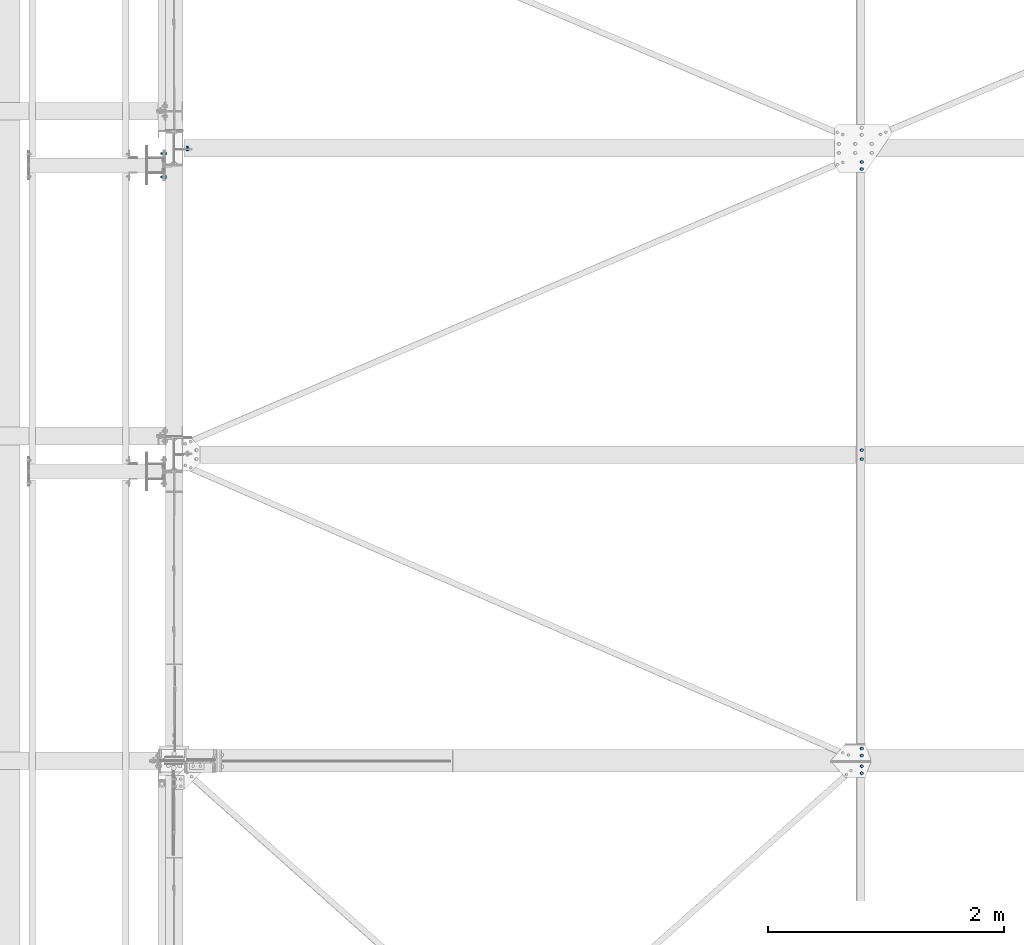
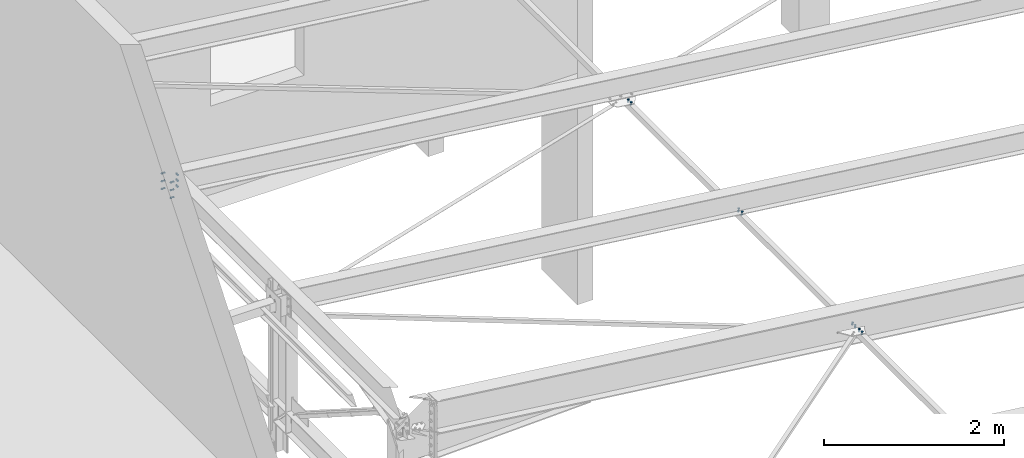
# One storey, part 206 of 3134: 6 mechanical fasteners, 5 elements without a shape of their own.
"""IFC2X3 building model written with IfcOpenShell, lengths in millimetres."""

from ifc_helpers import new_model, si_unit, frame, origin_with_axes, place, context, subcontext, project, spatial, faceted_brep, source, transform, mapped, material, type_object, element, aggregate, save


model = new_model("IFC2X3")

# Units and contexts
model_context = context("Model", 3, precision=1e-05, world=origin_with_axes())
body_context = subcontext(model_context, "Body", "Model", "MODEL_VIEW")
ifc_project = project(units=[si_unit("LENGTHUNIT", "METRE", prefix="MILLI"), si_unit("AREAUNIT", "SQUARE_METRE"), si_unit("VOLUMEUNIT", "CUBIC_METRE"), si_unit("MASSUNIT", "GRAM", prefix="KILO"), si_unit("TIMEUNIT", "SECOND"), si_unit("PLANEANGLEUNIT", "RADIAN"), si_unit("SOLIDANGLEUNIT", "STERADIAN"), si_unit("THERMODYNAMICTEMPERATUREUNIT", "DEGREE_CELSIUS"), si_unit("LUMINOUSINTENSITYUNIT", "LUMEN")], contexts=[model_context])

# Site, building, storey
site_placement = place(None, origin_with_axes())
site = spatial("IfcSite", under=ifc_project, at=site_placement, CompositionType="ELEMENT")
building_placement = place(site_placement, origin_with_axes())
building = spatial("IfcBuilding", under=site, at=building_placement, Name="Undefined", CompositionType="ELEMENT")
storey_placement = place(building_placement, origin_with_axes())
storey = spatial("IfcBuildingStorey", under=building, at=storey_placement, Name="Undefined", CompositionType="ELEMENT", Elevation=0.0)

# Assembly, mechanical fastener
assembly_1_placement = place(storey_placement, origin_with_axes())
assembly_1 = element("IfcElementAssembly", 1, at=assembly_1_placement, inside=storey, Name="300", AssemblyPlace="NOTDEFINED", PredefinedType="RIGID_FRAME")
ifc_material = material(Name="8.8")
mechanical_fastener_type = type_object("IfcMechanicalFastenerType", Name="Bolt assembly")
shared_shape_1 = source(origin_with_axes(), body_context, "Body", "Brep", [
    faceted_brep([(13.856406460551, -30.0, 0.0), (6.92820323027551, -30.0, 12.0), (-6.92820323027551, -30.0, 12.0), (-13.856406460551, -30.0, 1.69692038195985e-15), (-6.92820323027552, -30.0, -12.0), (6.9282032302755, -30.0, -12.0), (6.9282032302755, -20.0, -12.0), (-6.92820323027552, -20.0, -12.0), (-13.856406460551, -20.0, 1.69692038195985e-15), (-6.92820323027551, -20.0, 12.0), (6.92820323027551, -20.0, 12.0), (13.856406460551, -20.0, 0.0), (8.0, -20.0, 0.0), (6.92820323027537, -20.0, 4.00000000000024), (3.99999999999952, -20.0, 6.92820323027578), (-8.29068785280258e-13, -20.0, 8.0), (-4.00000000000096, -20.0, 6.92820323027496), (-6.9282032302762, -20.0, 3.99999999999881), (-8.0, -20.0, -1.65813757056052e-12), (-6.92820323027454, -20.0, -4.00000000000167), (-3.99999999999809, -20.0, -6.92820323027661), (2.47832457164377e-12, -20.0, -8.0), (4.00000000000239, -20.0, -6.92820323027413), (6.92820323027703, -20.0, -3.99999999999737), (6.92820323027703, 20.0, -3.99999999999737), (4.00000000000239, 20.0, -6.92820323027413), (2.47832457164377e-12, 20.0, -8.0), (-3.99999999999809, 20.0, -6.92820323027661), (-6.92820323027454, 20.0, -4.00000000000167), (-8.0, 20.0, -1.65813757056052e-12), (-6.9282032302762, 20.0, 3.99999999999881), (-4.00000000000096, 20.0, 6.92820323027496), (-8.29068785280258e-13, 20.0, 8.0), (3.99999999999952, 20.0, 6.92820323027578), (6.92820323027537, 20.0, 4.00000000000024), (8.0, 20.0, 0.0), (13.856406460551, 0.0, 0.0), (6.92820323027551, 0.0, 12.0), (-6.92820323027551, 0.0, 12.0), (-13.856406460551, 0.0, 1.69692038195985e-15), (-6.92820323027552, 0.0, -12.0), (6.9282032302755, 0.0, -12.0), (6.9282032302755, 12.9999996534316, -12.0), (-6.92820323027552, 12.9999996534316, -12.0), (-13.856406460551, 12.9999996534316, 1.69692038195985e-15), (-6.92820323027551, 12.9999996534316, 12.0), (6.92820323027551, 12.9999996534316, 12.0), (13.856406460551, 12.9999996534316, 0.0)], [[[0, 1, 2, 3, 4, 5]], [[6, 7, 8, 9, 10, 11]], [[0, 11, 10, 1]], [[1, 10, 9, 2]], [[2, 9, 8, 3]], [[3, 8, 7, 4]], [[4, 7, 6, 5]], [[5, 6, 11, 0]], [[12, 13, 14, 15, 16, 17, 18, 19, 20, 21, 22, 23]], [[24, 25, 26, 27, 28, 29, 30, 31, 32, 33, 34, 35]], [[12, 35, 34, 13]], [[13, 34, 33, 14]], [[14, 33, 32, 15]], [[15, 32, 31, 16]], [[16, 31, 30, 17]], [[17, 30, 29, 18]], [[18, 29, 28, 19]], [[19, 28, 27, 20]], [[20, 27, 26, 21]], [[21, 26, 25, 22]], [[22, 25, 24, 23]], [[23, 24, 35, 12]], [[36, 37, 38, 39, 40, 41]], [[42, 43, 44, 45, 46, 47]], [[36, 47, 46, 37]], [[37, 46, 45, 38]], [[38, 45, 44, 39]], [[39, 44, 43, 40]], [[40, 43, 42, 41]], [[41, 42, 47, 36]]]),
    faceted_brep([(9.0, -10.1000003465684, 0.0), (7.79422863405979, -10.1000003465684, 4.50000000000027), (4.49999999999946, -10.1000003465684, 7.79422863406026), (-9.3270238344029e-13, -10.1000003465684, 9.0), (-4.50000000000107, -10.1000003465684, 7.79422863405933), (-7.79422863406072, -10.1000003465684, 4.49999999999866), (-9.0, -10.1000003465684, -1.86540476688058e-12), (-7.79422863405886, -10.1000003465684, -4.50000000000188), (-4.49999999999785, -10.1000003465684, -7.79422863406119), (2.78811514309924e-12, -10.1000003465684, -9.0), (4.50000000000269, -10.1000003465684, -7.7942286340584), (7.79422863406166, -10.1000003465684, -4.49999999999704), (7.79422863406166, -3.46568413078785e-07, -4.49999999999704), (4.50000000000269, -3.46568413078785e-07, -7.7942286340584), (2.78811514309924e-12, -3.46568413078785e-07, -9.0), (-4.49999999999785, -3.46568413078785e-07, -7.79422863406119), (-7.79422863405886, -3.46568413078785e-07, -4.50000000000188), (-9.0, -3.46568413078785e-07, -1.86540476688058e-12), (-7.79422863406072, -3.46568413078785e-07, 4.49999999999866), (-4.50000000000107, -3.46568413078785e-07, 7.79422863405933), (-9.3270238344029e-13, -3.46568413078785e-07, 9.0), (4.49999999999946, -3.46568413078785e-07, 7.79422863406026), (7.79422863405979, -3.46568413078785e-07, 4.50000000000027), (9.0, -3.46568413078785e-07, 0.0), (9.0, -19.9, 0.0), (7.79422863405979, -19.9, 4.50000000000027), (4.49999999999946, -19.9, 7.79422863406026), (-9.3270238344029e-13, -19.9, 9.0), (-4.50000000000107, -19.9, 7.79422863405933), (-7.79422863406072, -19.9, 4.49999999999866), (-9.0, -19.9, -1.86540476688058e-12), (-7.79422863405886, -19.9, -4.50000000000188), (-4.49999999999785, -19.9, -7.79422863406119), (2.78811514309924e-12, -19.9, -9.0), (4.50000000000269, -19.9, -7.7942286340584), (7.79422863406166, -19.9, -4.49999999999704), (7.79422863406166, -9.89999997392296, -4.49999999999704), (4.50000000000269, -9.89999997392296, -7.7942286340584), (2.78811514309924e-12, -9.89999997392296, -9.0), (-4.49999999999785, -9.89999997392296, -7.79422863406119), (-7.79422863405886, -9.89999997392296, -4.50000000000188), (-9.0, -9.89999997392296, -1.86540476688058e-12), (-7.79422863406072, -9.89999997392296, 4.49999999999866), (-4.50000000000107, -9.89999997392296, 7.79422863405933), (-9.3270238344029e-13, -9.89999997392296, 9.0), (4.49999999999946, -9.89999997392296, 7.79422863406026), (7.79422863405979, -9.89999997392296, 4.50000000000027), (9.0, -9.89999997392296, 0.0)], [[[0, 1, 2, 3, 4, 5, 6, 7, 8, 9, 10, 11]], [[12, 13, 14, 15, 16, 17, 18, 19, 20, 21, 22, 23]], [[0, 23, 22, 1]], [[1, 22, 21, 2]], [[2, 21, 20, 3]], [[3, 20, 19, 4]], [[4, 19, 18, 5]], [[5, 18, 17, 6]], [[6, 17, 16, 7]], [[7, 16, 15, 8]], [[8, 15, 14, 9]], [[9, 14, 13, 10]], [[10, 13, 12, 11]], [[11, 12, 23, 0]], [[24, 25, 26, 27, 28, 29, 30, 31, 32, 33, 34, 35]], [[36, 37, 38, 39, 40, 41, 42, 43, 44, 45, 46, 47]], [[24, 47, 46, 25]], [[25, 46, 45, 26]], [[26, 45, 44, 27]], [[27, 44, 43, 28]], [[28, 43, 42, 29]], [[29, 42, 41, 30]], [[30, 41, 40, 31]], [[31, 40, 39, 32]], [[32, 39, 38, 33]], [[33, 38, 37, 34]], [[34, 37, 36, 35]], [[35, 36, 47, 24]]]),
])
mechanical_fastener_1_placement = place(assembly_1_placement, frame((20755.0, 45306.5019072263, 5846.5), z_axis=(0.0, 1.0, 0.0), x_axis=(0.0, 0.0, -1.0)))
mechanical_fastener_1 = element("IfcMechanicalFastener", 2, at=mechanical_fastener_1_placement, type_object=mechanical_fastener_type, material=ifc_material, Name="Bolt assembly", NominalDiameter=16.0, NominalLength=40.0, context=body_context, shape_type="MappedRepresentation", body=[
    mapped(shared_shape_1, transform((0.0, 0.0, -100.0))),
    mapped(shared_shape_1, transform((105.0, 0.0, -100.0))),
    mapped(shared_shape_1, transform((210.0, 0.0, -100.0))),
    mapped(shared_shape_1, transform((0.0, 0.0, 100.0))),
    mapped(shared_shape_1, transform((105.0, 0.0, 100.0))),
    mapped(shared_shape_1, transform((210.0, 0.0, 100.0))),
])
aggregate(assembly_1, [mechanical_fastener_1])

assembly_2_placement = place(storey_placement, origin_with_axes())
assembly_2 = element("IfcElementAssembly", 3, at=assembly_2_placement, inside=storey, Name="PL8", AssemblyPlace="NOTDEFINED", PredefinedType="RIGID_FRAME")
shared_shape_2 = source(origin_with_axes(), body_context, "Body", "Brep", [
    faceted_brep([(13.856406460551, -10.0, 0.0), (6.92820323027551, -10.0, 12.0), (-6.92820323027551, -10.0, 12.0), (-13.856406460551, -10.0, 1.69692038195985e-15), (-6.92820323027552, -10.0, -12.0), (6.9282032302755, -10.0, -12.0), (6.9282032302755, 0.0, -12.0), (-6.92820323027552, 0.0, -12.0), (-13.856406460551, 0.0, 1.69692038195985e-15), (-6.92820323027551, 0.0, 12.0), (6.92820323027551, 0.0, 12.0), (13.856406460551, 0.0, 0.0), (8.0, 0.0, 0.0), (6.92820323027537, 0.0, 4.00000000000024), (3.99999999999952, 0.0, 6.92820323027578), (-8.29068785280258e-13, 0.0, 8.0), (-4.00000000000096, 0.0, 6.92820323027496), (-6.9282032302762, 0.0, 3.99999999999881), (-8.0, 0.0, -1.65813757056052e-12), (-6.92820323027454, 0.0, -4.00000000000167), (-3.99999999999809, 0.0, -6.92820323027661), (2.47832457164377e-12, 0.0, -8.0), (4.00000000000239, 0.0, -6.92820323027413), (6.92820323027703, 0.0, -3.99999999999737), (6.92820323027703, 35.0000000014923, -3.99999999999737), (4.00000000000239, 35.0000000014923, -6.92820323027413), (2.47832457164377e-12, 35.0000000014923, -8.0), (-3.99999999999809, 35.0000000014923, -6.92820323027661), (-6.92820323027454, 35.0000000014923, -4.00000000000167), (-8.0, 35.0000000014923, -1.65813757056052e-12), (-6.9282032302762, 35.0000000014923, 3.99999999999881), (-4.00000000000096, 35.0000000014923, 6.92820323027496), (-8.29068785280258e-13, 35.0000000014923, 8.0), (3.99999999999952, 35.0000000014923, 6.92820323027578), (6.92820323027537, 35.0000000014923, 4.00000000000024), (8.0, 35.0000000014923, 0.0), (13.856406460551, 14.9990000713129, 0.0), (6.92820323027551, 14.9990000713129, 12.0), (-6.92820323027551, 14.9990000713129, 12.0), (-13.856406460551, 14.9990000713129, 1.69692038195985e-15), (-6.92820323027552, 14.9990000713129, -12.0), (6.9282032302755, 14.9990000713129, -12.0), (6.9282032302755, 27.9990000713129, -12.0), (-6.92820323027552, 27.9990000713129, -12.0), (-13.856406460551, 27.9990000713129, 1.69692038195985e-15), (-6.92820323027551, 27.9990000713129, 12.0), (6.92820323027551, 27.9990000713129, 12.0), (13.856406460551, 27.9990000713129, 0.0)], [[[0, 1, 2, 3, 4, 5]], [[6, 7, 8, 9, 10, 11]], [[0, 11, 10, 1]], [[1, 10, 9, 2]], [[2, 9, 8, 3]], [[3, 8, 7, 4]], [[4, 7, 6, 5]], [[5, 6, 11, 0]], [[12, 13, 14, 15, 16, 17, 18, 19, 20, 21, 22, 23]], [[24, 25, 26, 27, 28, 29, 30, 31, 32, 33, 34, 35]], [[12, 35, 34, 13]], [[13, 34, 33, 14]], [[14, 33, 32, 15]], [[15, 32, 31, 16]], [[16, 31, 30, 17]], [[17, 30, 29, 18]], [[18, 29, 28, 19]], [[19, 28, 27, 20]], [[20, 27, 26, 21]], [[21, 26, 25, 22]], [[22, 25, 24, 23]], [[23, 24, 35, 12]], [[36, 37, 38, 39, 40, 41]], [[42, 43, 44, 45, 46, 47]], [[36, 47, 46, 37]], [[37, 46, 45, 38]], [[38, 45, 44, 39]], [[39, 44, 43, 40]], [[40, 43, 42, 41]], [[41, 42, 47, 36]]]),
    faceted_brep([(9.0, 7.89900007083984, 0.0), (7.79422863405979, 7.89900007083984, 4.50000000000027), (4.49999999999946, 7.89900007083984, 7.79422863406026), (-9.3270238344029e-13, 7.89900007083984, 9.0), (-4.50000000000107, 7.89900007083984, 7.79422863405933), (-7.79422863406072, 7.89900007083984, 4.49999999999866), (-9.0, 7.89900007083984, -1.86540476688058e-12), (-7.79422863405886, 7.89900007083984, -4.50000000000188), (-4.49999999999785, 7.89900007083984, -7.79422863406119), (2.78811514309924e-12, 7.89900007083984, -9.0), (4.50000000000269, 7.89900007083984, -7.7942286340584), (7.79422863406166, 7.89900007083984, -4.49999999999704), (7.79422863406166, 14.9990000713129, -4.49999999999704), (4.50000000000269, 14.9990000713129, -7.7942286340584), (2.78811514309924e-12, 14.9990000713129, -9.0), (-4.49999999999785, 14.9990000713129, -7.79422863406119), (-7.79422863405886, 14.9990000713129, -4.50000000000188), (-9.0, 14.9990000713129, -1.86540476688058e-12), (-7.79422863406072, 14.9990000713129, 4.49999999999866), (-4.50000000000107, 14.9990000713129, 7.79422863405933), (-9.3270238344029e-13, 14.9990000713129, 9.0), (4.49999999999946, 14.9990000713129, 7.79422863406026), (7.79422863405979, 14.9990000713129, 4.50000000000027), (9.0, 14.9990000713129, 0.0), (9.0, 0.100000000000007, 0.0), (7.79422863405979, 0.100000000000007, 4.50000000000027), (4.49999999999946, 0.100000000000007, 7.79422863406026), (-9.3270238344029e-13, 0.100000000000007, 9.0), (-4.50000000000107, 0.100000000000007, 7.79422863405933), (-7.79422863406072, 0.100000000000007, 4.49999999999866), (-9.0, 0.100000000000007, -1.86540476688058e-12), (-7.79422863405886, 0.100000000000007, -4.50000000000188), (-4.49999999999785, 0.100000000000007, -7.79422863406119), (2.78811514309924e-12, 0.100000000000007, -9.0), (4.50000000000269, 0.100000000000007, -7.7942286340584), (7.79422863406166, 0.100000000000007, -4.49999999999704), (7.79422863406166, 8.1, -4.49999999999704), (4.50000000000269, 8.1, -7.7942286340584), (2.78811514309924e-12, 8.1, -9.0), (-4.49999999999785, 8.1, -7.79422863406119), (-7.79422863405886, 8.1, -4.50000000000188), (-9.0, 8.1, -1.86540476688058e-12), (-7.79422863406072, 8.1, 4.49999999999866), (-4.50000000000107, 8.1, 7.79422863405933), (-9.3270238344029e-13, 8.1, 9.0), (4.49999999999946, 8.1, 7.79422863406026), (7.79422863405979, 8.1, 4.50000000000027), (9.0, 8.1, 0.0)], [[[0, 1, 2, 3, 4, 5, 6, 7, 8, 9, 10, 11]], [[12, 13, 14, 15, 16, 17, 18, 19, 20, 21, 22, 23]], [[0, 23, 22, 1]], [[1, 22, 21, 2]], [[2, 21, 20, 3]], [[3, 20, 19, 4]], [[4, 19, 18, 5]], [[5, 18, 17, 6]], [[6, 17, 16, 7]], [[7, 16, 15, 8]], [[8, 15, 14, 9]], [[9, 14, 13, 10]], [[10, 13, 12, 11]], [[11, 12, 23, 0]], [[24, 25, 26, 27, 28, 29, 30, 31, 32, 33, 34, 35]], [[36, 37, 38, 39, 40, 41, 42, 43, 44, 45, 46, 47]], [[24, 47, 46, 25]], [[25, 46, 45, 26]], [[26, 45, 44, 27]], [[27, 44, 43, 28]], [[28, 43, 42, 29]], [[29, 42, 41, 30]], [[30, 41, 40, 31]], [[31, 40, 39, 32]], [[32, 39, 38, 33]], [[33, 38, 37, 34]], [[34, 37, 36, 35]], [[35, 36, 47, 24]]]),
])
mechanical_fastener_2_placement = place(assembly_2_placement, frame((26687.9849612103, 45335.0, 4806.73358922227), z_axis=(0.992623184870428, 0.0, -0.121240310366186), x_axis=(0.0, -1.0, 0.0)))
mechanical_fastener_2 = element("IfcMechanicalFastener", 4, at=mechanical_fastener_2_placement, type_object=mechanical_fastener_type, material=ifc_material, Name="Bolt assembly", NominalDiameter=16.0, NominalLength=35.0, context=body_context, shape_type="MappedRepresentation", body=[
    mapped(shared_shape_2, transform((0.0, 0.0, 0.0))),
    mapped(shared_shape_2, transform((59.9999999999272, 0.0, 5.40239852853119e-10))),
])
aggregate(assembly_2, [mechanical_fastener_2])

# Assembly, mechanical fasteners
assembly_3_placement = place(storey_placement, origin_with_axes())
assembly_3 = element("IfcElementAssembly", 5, at=assembly_3_placement, inside=storey, Name="IPE450", AssemblyPlace="NOTDEFINED", PredefinedType="RIGID_FRAME")
mechanical_fastener_3_placement = place(assembly_3_placement, frame((26687.9849611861, 40295.0, 4806.73358922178), z_axis=(-0.992623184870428, 0.0, 0.121240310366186), x_axis=(0.0, 1.0, 0.0)))
mechanical_fastener_3 = element("IfcMechanicalFastener", 6, at=mechanical_fastener_3_placement, type_object=mechanical_fastener_type, material=ifc_material, Name="Bolt assembly", NominalDiameter=16.0, NominalLength=35.0, context=body_context, shape_type="MappedRepresentation", body=[
    mapped(shared_shape_2, transform((0.0, 0.0, 0.0))),
    mapped(shared_shape_2, transform((59.9999999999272, 0.0, 5.40239852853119e-10))),
])
mechanical_fastener_4_placement = place(assembly_3_placement, frame((26687.9849611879, 40205.0, 4806.73358922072), z_axis=(0.992623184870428, 0.0, -0.121240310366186), x_axis=(0.0, -1.0, 0.0)))
mechanical_fastener_4 = element("IfcMechanicalFastener", 7, at=mechanical_fastener_4_placement, type_object=mechanical_fastener_type, material=ifc_material, Name="Bolt assembly", NominalDiameter=16.0, NominalLength=35.0, context=body_context, shape_type="MappedRepresentation", body=[
    mapped(shared_shape_2, transform((0.0, 0.0, 0.0))),
    mapped(shared_shape_2, transform((59.9999999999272, 0.0, 5.40239852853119e-10))),
])
aggregate(assembly_3, [mechanical_fastener_3, mechanical_fastener_4])

# Assembly, mechanical fastener
assembly_4_placement = place(storey_placement, origin_with_axes())
assembly_4 = element("IfcElementAssembly", 8, at=assembly_4_placement, inside=storey, AssemblyPlace="NOTDEFINED", PredefinedType="RIGID_FRAME")
shared_shape_3 = source(origin_with_axes(), body_context, "Body", "Brep", [
    faceted_brep([(13.856406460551, -19.199990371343, 0.0), (6.92820323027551, -19.199990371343, 12.0), (-6.92820323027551, -19.199990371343, 12.0), (-13.856406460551, -19.199990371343, 1.69692038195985e-15), (-6.92820323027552, -19.199990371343, -12.0), (6.9282032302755, -19.199990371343, -12.0), (6.9282032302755, -9.19999037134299, -12.0), (-6.92820323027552, -9.19999037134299, -12.0), (-13.856406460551, -9.19999037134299, 1.69692038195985e-15), (-6.92820323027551, -9.19999037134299, 12.0), (6.92820323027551, -9.19999037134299, 12.0), (13.856406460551, -9.19999037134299, 0.0), (8.0, -9.19999037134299, 0.0), (6.92820323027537, -9.19999037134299, 4.00000000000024), (3.99999999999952, -9.19999037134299, 6.92820323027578), (-8.29068785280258e-13, -9.19999037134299, 8.0), (-4.00000000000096, -9.19999037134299, 6.92820323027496), (-6.9282032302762, -9.19999037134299, 3.99999999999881), (-8.0, -9.19999037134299, -1.65813757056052e-12), (-6.92820323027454, -9.19999037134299, -4.00000000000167), (-3.99999999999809, -9.19999037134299, -6.92820323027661), (2.47832457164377e-12, -9.19999037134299, -8.0), (4.00000000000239, -9.19999037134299, -6.92820323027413), (6.92820323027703, -9.19999037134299, -3.99999999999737), (6.92820323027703, 35.8000002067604, -3.99999999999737), (4.00000000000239, 35.8000002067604, -6.92820323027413), (2.47832457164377e-12, 35.8000002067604, -8.0), (-3.99999999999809, 35.8000002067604, -6.92820323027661), (-6.92820323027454, 35.8000002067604, -4.00000000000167), (-8.0, 35.8000002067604, -1.65813757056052e-12), (-6.9282032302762, 35.8000002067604, 3.99999999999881), (-4.00000000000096, 35.8000002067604, 6.92820323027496), (-8.29068785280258e-13, 35.8000002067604, 8.0), (3.99999999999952, 35.8000002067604, 6.92820323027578), (6.92820323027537, 35.8000002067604, 4.00000000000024), (8.0, 35.8000002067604, 0.0), (13.856406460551, 14.9990000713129, 0.0), (6.92820323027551, 14.9990000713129, 12.0), (-6.92820323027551, 14.9990000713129, 12.0), (-13.856406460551, 14.9990000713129, 1.69692038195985e-15), (-6.92820323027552, 14.9990000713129, -12.0), (6.9282032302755, 14.9990000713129, -12.0), (6.9282032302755, 27.9990000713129, -12.0), (-6.92820323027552, 27.9990000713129, -12.0), (-13.856406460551, 27.9990000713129, 1.69692038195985e-15), (-6.92820323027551, 27.9990000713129, 12.0), (6.92820323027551, 27.9990000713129, 12.0), (13.856406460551, 27.9990000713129, 0.0)], [[[0, 1, 2, 3, 4, 5]], [[6, 7, 8, 9, 10, 11]], [[0, 11, 10, 1]], [[1, 10, 9, 2]], [[2, 9, 8, 3]], [[3, 8, 7, 4]], [[4, 7, 6, 5]], [[5, 6, 11, 0]], [[12, 13, 14, 15, 16, 17, 18, 19, 20, 21, 22, 23]], [[24, 25, 26, 27, 28, 29, 30, 31, 32, 33, 34, 35]], [[12, 35, 34, 13]], [[13, 34, 33, 14]], [[14, 33, 32, 15]], [[15, 32, 31, 16]], [[16, 31, 30, 17]], [[17, 30, 29, 18]], [[18, 29, 28, 19]], [[19, 28, 27, 20]], [[20, 27, 26, 21]], [[21, 26, 25, 22]], [[22, 25, 24, 23]], [[23, 24, 35, 12]], [[36, 37, 38, 39, 40, 41]], [[42, 43, 44, 45, 46, 47]], [[36, 47, 46, 37]], [[37, 46, 45, 38]], [[38, 45, 44, 39]], [[39, 44, 43, 40]], [[40, 43, 42, 41]], [[41, 42, 47, 36]]]),
    faceted_brep([(9.0, -9.09999037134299, 0.0), (7.79422863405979, -9.09999037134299, 4.50000000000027), (4.49999999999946, -9.09999037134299, 7.79422863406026), (-9.3270238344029e-13, -9.09999037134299, 9.0), (-4.50000000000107, -9.09999037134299, 7.79422863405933), (-7.79422863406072, -9.09999037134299, 4.49999999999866), (-9.0, -9.09999037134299, -1.86540476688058e-12), (-7.79422863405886, -9.09999037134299, -4.50000000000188), (-4.49999999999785, -9.09999037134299, -7.79422863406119), (2.78811514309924e-12, -9.09999037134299, -9.0), (4.50000000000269, -9.09999037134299, -7.7942286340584), (7.79422863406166, -9.09999037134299, -4.49999999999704), (7.79422863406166, 0.100000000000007, -4.49999999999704), (4.50000000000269, 0.100000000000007, -7.7942286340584), (2.78811514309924e-12, 0.100000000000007, -9.0), (-4.49999999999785, 0.100000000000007, -7.79422863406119), (-7.79422863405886, 0.100000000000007, -4.50000000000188), (-9.0, 0.100000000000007, -1.86540476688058e-12), (-7.79422863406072, 0.100000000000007, 4.49999999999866), (-4.50000000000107, 0.100000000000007, 7.79422863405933), (-9.3270238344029e-13, 0.100000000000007, 9.0), (4.49999999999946, 0.100000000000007, 7.79422863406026), (7.79422863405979, 0.100000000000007, 4.50000000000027), (9.0, 0.100000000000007, 0.0), (9.0, 7.89900007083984, 0.0), (7.79422863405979, 7.89900007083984, 4.50000000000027), (4.49999999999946, 7.89900007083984, 7.79422863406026), (-9.3270238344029e-13, 7.89900007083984, 9.0), (-4.50000000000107, 7.89900007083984, 7.79422863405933), (-7.79422863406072, 7.89900007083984, 4.49999999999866), (-9.0, 7.89900007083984, -1.86540476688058e-12), (-7.79422863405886, 7.89900007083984, -4.50000000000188), (-4.49999999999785, 7.89900007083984, -7.79422863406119), (2.78811514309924e-12, 7.89900007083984, -9.0), (4.50000000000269, 7.89900007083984, -7.7942286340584), (7.79422863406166, 7.89900007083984, -4.49999999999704), (7.79422863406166, 14.9990000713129, -4.49999999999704), (4.50000000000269, 14.9990000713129, -7.7942286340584), (2.78811514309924e-12, 14.9990000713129, -9.0), (-4.49999999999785, 14.9990000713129, -7.79422863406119), (-7.79422863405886, 14.9990000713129, -4.50000000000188), (-9.0, 14.9990000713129, -1.86540476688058e-12), (-7.79422863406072, 14.9990000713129, 4.49999999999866), (-4.50000000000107, 14.9990000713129, 7.79422863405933), (-9.3270238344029e-13, 14.9990000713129, 9.0), (4.49999999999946, 14.9990000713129, 7.79422863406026), (7.79422863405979, 14.9990000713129, 4.50000000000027), (9.0, 14.9990000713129, 0.0)], [[[0, 1, 2, 3, 4, 5, 6, 7, 8, 9, 10, 11]], [[12, 13, 14, 15, 16, 17, 18, 19, 20, 21, 22, 23]], [[0, 23, 22, 1]], [[1, 22, 21, 2]], [[2, 21, 20, 3]], [[3, 20, 19, 4]], [[4, 19, 18, 5]], [[5, 18, 17, 6]], [[6, 17, 16, 7]], [[7, 16, 15, 8]], [[8, 15, 14, 9]], [[9, 14, 13, 10]], [[10, 13, 12, 11]], [[11, 12, 23, 0]], [[24, 25, 26, 27, 28, 29, 30, 31, 32, 33, 34, 35]], [[36, 37, 38, 39, 40, 41, 42, 43, 44, 45, 46, 47]], [[24, 47, 46, 25]], [[25, 46, 45, 26]], [[26, 45, 44, 27]], [[27, 44, 43, 28]], [[28, 43, 42, 29]], [[29, 42, 41, 30]], [[30, 41, 40, 31]], [[31, 40, 39, 32]], [[32, 39, 38, 33]], [[33, 38, 37, 34]], [[34, 37, 36, 35]], [[35, 36, 47, 24]]]),
])
mechanical_fastener_5_placement = place(assembly_4_placement, frame((26687.9849612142, 42812.0, 4806.73358922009), z_axis=(-0.992623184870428, 0.0, 0.121240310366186), x_axis=(0.0, 1.0, 0.0)))
mechanical_fastener_5 = element("IfcMechanicalFastener", 9, at=mechanical_fastener_5_placement, type_object=mechanical_fastener_type, material=ifc_material, Name="Bolt assembly", NominalDiameter=16.0, NominalLength=45.0, context=body_context, shape_type="MappedRepresentation", body=[
    mapped(shared_shape_3, transform((0.0, 0.0, 0.0))),
    mapped(shared_shape_3, transform((76.0, 0.0, 0.0))),
])
aggregate(assembly_4, [mechanical_fastener_5])

assembly_5_placement = place(storey_placement, origin_with_axes())
assembly_5 = element("IfcElementAssembly", 10, at=assembly_5_placement, inside=storey, Name="300", AssemblyPlace="NOTDEFINED", PredefinedType="RIGID_FRAME")
shared_shape_4 = source(origin_with_axes(), body_context, "Body", "Brep", [
    faceted_brep([(13.856406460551, -23.0499999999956, 0.0), (6.92820323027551, -23.0499999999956, 12.0), (-6.92820323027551, -23.0499999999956, 12.0), (-13.856406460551, -23.0499999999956, 1.69692038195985e-15), (-6.92820323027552, -23.0499999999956, -12.0), (6.9282032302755, -23.0499999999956, -12.0), (6.9282032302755, -13.0499999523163, -12.0), (-6.92820323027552, -13.0499999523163, -12.0), (-13.856406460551, -13.0499999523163, 1.69692038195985e-15), (-6.92820323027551, -13.0499999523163, 12.0), (6.92820323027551, -13.0499999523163, 12.0), (13.856406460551, -13.0499999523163, 0.0), (8.0, -13.0499999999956, 0.0), (6.92820323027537, -13.0499999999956, 4.00000000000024), (3.99999999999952, -13.0499999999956, 6.92820323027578), (-8.29068785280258e-13, -13.0499999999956, 8.0), (-4.00000000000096, -13.0499999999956, 6.92820323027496), (-6.9282032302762, -13.0499999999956, 3.99999999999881), (-8.0, -13.0499999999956, -1.65813757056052e-12), (-6.92820323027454, -13.0499999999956, -4.00000000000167), (-3.99999999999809, -13.0499999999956, -6.92820323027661), (2.47832457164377e-12, -13.0499999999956, -8.0), (4.00000000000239, -13.0499999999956, -6.92820323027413), (6.92820323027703, -13.0499999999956, -3.99999999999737), (6.92820323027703, 21.9500000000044, -3.99999999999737), (4.00000000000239, 21.9500000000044, -6.92820323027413), (2.47832457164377e-12, 21.9500000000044, -8.0), (-3.99999999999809, 21.9500000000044, -6.92820323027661), (-6.92820323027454, 21.9500000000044, -4.00000000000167), (-8.0, 21.9500000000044, -1.65813757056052e-12), (-6.9282032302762, 21.9500000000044, 3.99999999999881), (-4.00000000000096, 21.9500000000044, 6.92820323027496), (-8.29068785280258e-13, 21.9500000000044, 8.0), (3.99999999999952, 21.9500000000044, 6.92820323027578), (6.92820323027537, 21.9500000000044, 4.00000000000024), (8.0, 21.9500000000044, 0.0), (13.856406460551, 3.04999995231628, 0.0), (6.92820323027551, 3.04999995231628, 12.0), (-6.92820323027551, 3.04999995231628, 12.0), (-13.856406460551, 3.04999995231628, 1.69692038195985e-15), (-6.92820323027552, 3.04999995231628, -12.0), (6.9282032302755, 3.04999995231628, -12.0), (6.9282032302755, 16.0499999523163, -12.0), (-6.92820323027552, 16.0499999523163, -12.0), (-13.856406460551, 16.0499999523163, 1.69692038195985e-15), (-6.92820323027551, 16.0499999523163, 12.0), (6.92820323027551, 16.0499999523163, 12.0), (13.856406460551, 16.0499999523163, 0.0)], [[[0, 1, 2, 3, 4, 5]], [[6, 7, 8, 9, 10, 11]], [[0, 11, 10, 1]], [[1, 10, 9, 2]], [[2, 9, 8, 3]], [[3, 8, 7, 4]], [[4, 7, 6, 5]], [[5, 6, 11, 0]], [[12, 13, 14, 15, 16, 17, 18, 19, 20, 21, 22, 23]], [[24, 25, 26, 27, 28, 29, 30, 31, 32, 33, 34, 35]], [[12, 35, 34, 13]], [[13, 34, 33, 14]], [[14, 33, 32, 15]], [[15, 32, 31, 16]], [[16, 31, 30, 17]], [[17, 30, 29, 18]], [[18, 29, 28, 19]], [[19, 28, 27, 20]], [[20, 27, 26, 21]], [[21, 26, 25, 22]], [[22, 25, 24, 23]], [[23, 24, 35, 12]], [[36, 37, 38, 39, 40, 41]], [[42, 43, 44, 45, 46, 47]], [[36, 47, 46, 37]], [[37, 46, 45, 38]], [[38, 45, 44, 39]], [[39, 44, 43, 40]], [[40, 43, 42, 41]], [[41, 42, 47, 36]]]),
    faceted_brep([(9.0, -12.9499999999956, 0.0), (7.79422863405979, -12.9499999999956, 4.50000000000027), (4.49999999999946, -12.9499999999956, 7.79422863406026), (-9.3270238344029e-13, -12.9499999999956, 9.0), (-4.50000000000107, -12.9499999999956, 7.79422863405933), (-7.79422863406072, -12.9499999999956, 4.49999999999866), (-9.0, -12.9499999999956, -1.86540476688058e-12), (-7.79422863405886, -12.9499999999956, -4.50000000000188), (-4.49999999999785, -12.9499999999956, -7.79422863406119), (2.78811514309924e-12, -12.9499999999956, -9.0), (4.50000000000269, -12.9499999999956, -7.7942286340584), (7.79422863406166, -12.9499999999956, -4.49999999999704), (7.79422863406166, -2.94999995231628, -4.49999999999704), (4.50000000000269, -2.94999995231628, -7.7942286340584), (2.78811514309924e-12, -2.94999995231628, -9.0), (-4.49999999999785, -2.94999995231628, -7.79422863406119), (-7.79422863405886, -2.94999995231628, -4.50000000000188), (-9.0, -2.94999995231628, -1.86540476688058e-12), (-7.79422863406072, -2.94999995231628, 4.49999999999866), (-4.50000000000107, -2.94999995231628, 7.79422863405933), (-9.3270238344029e-13, -2.94999995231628, 9.0), (4.49999999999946, -2.94999995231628, 7.79422863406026), (7.79422863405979, -2.94999995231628, 4.50000000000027), (9.0, -2.94999995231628, 0.0), (9.0, -3.14999995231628, 0.0), (7.79422863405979, -3.14999995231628, 4.50000000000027), (4.49999999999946, -3.14999995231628, 7.79422863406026), (-9.3270238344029e-13, -3.14999995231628, 9.0), (-4.50000000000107, -3.14999995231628, 7.79422863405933), (-7.79422863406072, -3.14999995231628, 4.49999999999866), (-9.0, -3.14999995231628, -1.86540476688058e-12), (-7.79422863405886, -3.14999995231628, -4.50000000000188), (-4.49999999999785, -3.14999995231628, -7.79422863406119), (2.78811514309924e-12, -3.14999995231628, -9.0), (4.50000000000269, -3.14999995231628, -7.7942286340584), (7.79422863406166, -3.14999995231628, -4.49999999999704), (7.79422863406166, 3.04999995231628, -4.49999999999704), (4.50000000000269, 3.04999995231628, -7.7942286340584), (2.78811514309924e-12, 3.04999995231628, -9.0), (-4.49999999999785, 3.04999995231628, -7.79422863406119), (-7.79422863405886, 3.04999995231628, -4.50000000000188), (-9.0, 3.04999995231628, -1.86540476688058e-12), (-7.79422863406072, 3.04999995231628, 4.49999999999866), (-4.50000000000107, 3.04999995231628, 7.79422863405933), (-9.3270238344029e-13, 3.04999995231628, 9.0), (4.49999999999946, 3.04999995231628, 7.79422863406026), (7.79422863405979, 3.04999995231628, 4.50000000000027), (9.0, 3.04999995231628, 0.0)], [[[0, 1, 2, 3, 4, 5, 6, 7, 8, 9, 10, 11]], [[12, 13, 14, 15, 16, 17, 18, 19, 20, 21, 22, 23]], [[0, 23, 22, 1]], [[1, 22, 21, 2]], [[2, 21, 20, 3]], [[3, 20, 19, 4]], [[4, 19, 18, 5]], [[5, 18, 17, 6]], [[6, 17, 16, 7]], [[7, 16, 15, 8]], [[8, 15, 14, 9]], [[9, 14, 13, 10]], [[10, 13, 12, 11]], [[11, 12, 23, 0]], [[24, 25, 26, 27, 28, 29, 30, 31, 32, 33, 34, 35]], [[36, 37, 38, 39, 40, 41, 42, 43, 44, 45, 46, 47]], [[24, 47, 46, 25]], [[25, 46, 45, 26]], [[26, 45, 44, 27]], [[27, 44, 43, 28]], [[28, 43, 42, 29]], [[29, 42, 41, 30]], [[30, 41, 40, 31]], [[31, 40, 39, 32]], [[32, 39, 38, 33]], [[33, 38, 37, 34]], [[34, 37, 36, 35]], [[35, 36, 47, 24]]]),
])
mechanical_fastener_6_placement = place(assembly_5_placement, frame((20965.0, 45450.0, 5735.35014950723), z_axis=(1.0, 0.0, 0.0), x_axis=(0.0, 0.0, -1.0)))
mechanical_fastener_6 = element("IfcMechanicalFastener", 11, at=mechanical_fastener_6_placement, type_object=mechanical_fastener_type, material=ifc_material, Name="Bolt assembly", NominalDiameter=16.0, NominalLength=35.0, context=body_context, shape_type="MappedRepresentation", body=[
    mapped(shared_shape_4, transform((0.0, 0.0, 0.0))),
    mapped(shared_shape_4, transform((80.0, 0.0, 0.0))),
    mapped(shared_shape_4, transform((160.0, 0.0, 0.0))),
])
aggregate(assembly_5, [mechanical_fastener_6])

save(model, "model.ifc")
